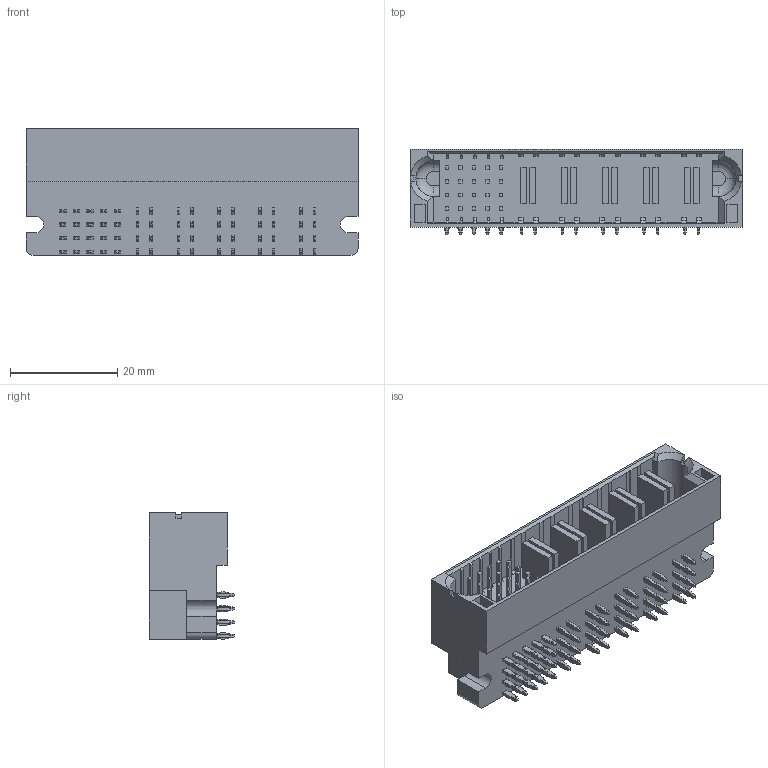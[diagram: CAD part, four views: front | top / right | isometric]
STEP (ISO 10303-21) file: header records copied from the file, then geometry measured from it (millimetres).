
FILE_DESCRIPTION (( 'STEP AP214' ), '1' );
FILE_NAME ('9303-1S20A05CB30PA-A004.STEP', '2023-07-03T01:02:19', ( '' ), ( '' ), 'SwSTEP 2.0', 'SolidWorks 2011', '' );
FILE_SCHEMA (( 'AUTOMOTIVE_DESIGN' ));
Length unit declared in the file: millimetre
Products named in the file (1): 9303-1S20A05CB30PA-A004
Bounding box: 61.98 x 16 x 23.62 mm (x, y, z)
Volume: 13385.3 mm3; surface area: 9132.7 mm2
Topology: 1 solids, 1 shells, 1735 faces, 4471 edges, 2844 vertices
Faces by surface type: plane 956, cylinder 491, torus 189, bspline 92, cone 7
Entity records: 73015 total; most frequent: CARTESIAN_POINT 12791, ORIENTED_EDGE 8942, DIRECTION 8416, EDGE_CURVE 4471, VERTEX_POINT 2844, AXIS2_PLACEMENT_3D 2816, LINE 2784, VECTOR 2784
